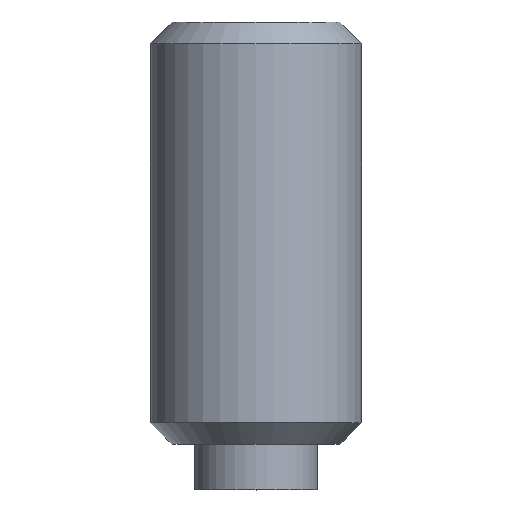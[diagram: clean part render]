
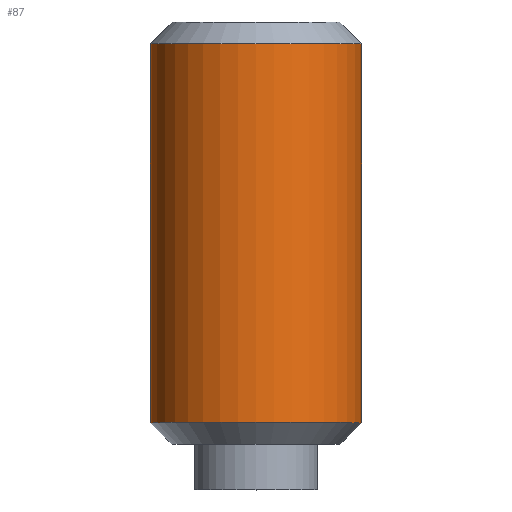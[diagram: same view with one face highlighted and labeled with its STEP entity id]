
A CAD part, top view. The second image highlights one B-rep face of the part: STEP entity #87.
In plain terms, the highlighted cylindrical face has radius 3 mm (diameter 6 mm), a full revolution.
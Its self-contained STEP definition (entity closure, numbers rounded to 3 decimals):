
#87 = ADVANCED_FACE( '', ( #118, #119 ), #120, .T. );
#118 = FACE_OUTER_BOUND( '', #152, .T. );
#119 = FACE_OUTER_BOUND( '', #153, .T. );
#120 = CYLINDRICAL_SURFACE( '', #154, 3. );
#152 = EDGE_LOOP( '', ( #238 ) );
#153 = EDGE_LOOP( '', ( #239 ) );
#154 = AXIS2_PLACEMENT_3D( '', #240, #241, #242 );
#238 = ORIENTED_EDGE( '', *, *, #270, .F. );
#239 = ORIENTED_EDGE( '', *, *, #271, .T. );
#240 = CARTESIAN_POINT( '', ( 0., 0., 0. ) );
#241 = DIRECTION( '', ( 0., 1., 0. ) );
#242 = DIRECTION( '', ( 0., 0., -1. ) );
#270 = EDGE_CURVE( '', #310, #310, #311, .T. );
#271 = EDGE_CURVE( '', #312, #312, #313, .T. );
#310 = VERTEX_POINT( '', #370 );
#311 = CIRCLE( '', #371, 3. );
#312 = VERTEX_POINT( '', #372 );
#313 = CIRCLE( '', #373, 3. );
#370 = CARTESIAN_POINT( '', ( 0., 1.913, -3. ) );
#371 = AXIS2_PLACEMENT_3D( '', #404, #405, #406 );
#372 = CARTESIAN_POINT( '', ( 0., 12.687, -3. ) );
#373 = AXIS2_PLACEMENT_3D( '', #407, #408, #409 );
#404 = CARTESIAN_POINT( '', ( 0., 1.913, 0. ) );
#405 = DIRECTION( '', ( 0., -1., 0. ) );
#406 = DIRECTION( '', ( 0., 0., -1. ) );
#407 = CARTESIAN_POINT( '', ( 0., 12.687, 0. ) );
#408 = DIRECTION( '', ( 0., -1., 0. ) );
#409 = DIRECTION( '', ( 0., 0., -1. ) );
